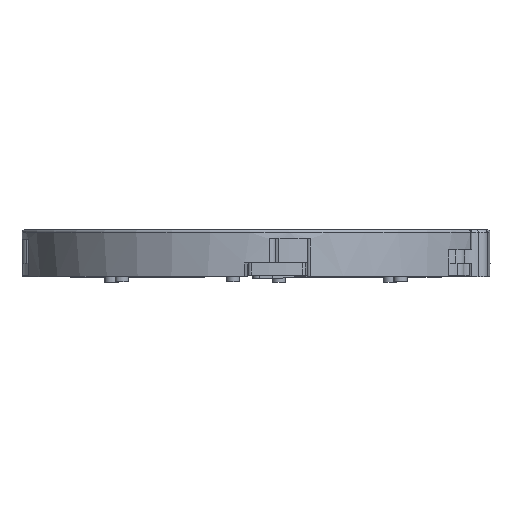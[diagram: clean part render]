
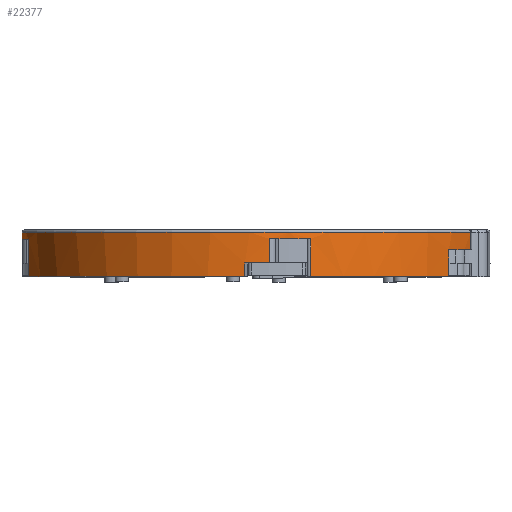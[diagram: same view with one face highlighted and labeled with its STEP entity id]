
A CAD part, top view. The second image highlights one B-rep face of the part: STEP entity #22377.
In plain terms, the highlighted cylindrical face has radius 17.5 mm (diameter 35 mm), a partial arc.
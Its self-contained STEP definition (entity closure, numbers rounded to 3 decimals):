
#1363=CIRCLE('',#23441,17.5);
#1369=CIRCLE('',#23452,17.5);
#1471=CIRCLE('',#23746,17.5);
#1477=CIRCLE('',#23753,17.5);
#1487=CIRCLE('',#23765,17.5);
#1513=CIRCLE('',#23803,17.5);
#1519=CIRCLE('',#23810,17.5);
#1520=CIRCLE('',#23811,17.5);
#1521=CIRCLE('',#23812,17.5);
#1851=CYLINDRICAL_SURFACE('',#23809,17.5);
#2309=FACE_OUTER_BOUND('',#3607,.T.);
#3607=EDGE_LOOP('',(#16412,#16413,#16414,#16415,#16416,#16417,#16418,#16419,
#16420,#16421,#16422,#16423,#16424,#16425,#16426,#16427,#16428,#16429));
#5391=LINE('',#33484,#7538);
#5392=LINE('',#33500,#7539);
#5393=LINE('',#33502,#7540);
#5394=LINE('',#33505,#7541);
#5395=LINE('',#33506,#7542);
#5396=LINE('',#33508,#7543);
#5397=LINE('',#33511,#7544);
#5398=LINE('',#33512,#7545);
#5399=LINE('',#33513,#7546);
#7538=VECTOR('',#26361,10.);
#7539=VECTOR('',#26380,10.);
#7540=VECTOR('',#26381,10.);
#7541=VECTOR('',#26384,10.);
#7542=VECTOR('',#26385,10.);
#7543=VECTOR('',#26386,10.);
#7544=VECTOR('',#26389,10.);
#7545=VECTOR('',#26390,10.);
#7546=VECTOR('',#26391,10.);
#9049=VERTEX_POINT('',#30011);
#9050=VERTEX_POINT('',#30013);
#9061=VERTEX_POINT('',#30045);
#9062=VERTEX_POINT('',#30047);
#9751=VERTEX_POINT('',#33342);
#9752=VERTEX_POINT('',#33344);
#9755=VERTEX_POINT('',#33352);
#9759=VERTEX_POINT('',#33359);
#9766=VERTEX_POINT('',#33376);
#9771=VERTEX_POINT('',#33385);
#9802=VERTEX_POINT('',#33474);
#9804=VERTEX_POINT('',#33480);
#9806=VERTEX_POINT('',#33486);
#9811=VERTEX_POINT('',#33498);
#9812=VERTEX_POINT('',#33501);
#9813=VERTEX_POINT('',#33503);
#9814=VERTEX_POINT('',#33507);
#9815=VERTEX_POINT('',#33509);
#11316=EDGE_CURVE('',#9050,#9049,#1363,.T.);
#11333=EDGE_CURVE('',#9062,#9061,#1369,.T.);
#12261=EDGE_CURVE('',#9751,#9752,#1471,.T.);
#12269=EDGE_CURVE('',#9759,#9755,#1477,.T.);
#12281=EDGE_CURVE('',#9771,#9766,#1487,.T.);
#12333=EDGE_CURVE('',#9802,#9804,#5391,.T.);
#12334=EDGE_CURVE('',#9806,#9804,#1513,.T.);
#12340=EDGE_CURVE('',#9811,#9802,#1519,.T.);
#12341=EDGE_CURVE('',#9766,#9811,#5392,.T.);
#12342=EDGE_CURVE('',#9812,#9771,#5393,.T.);
#12343=EDGE_CURVE('',#9812,#9813,#1520,.T.);
#12344=EDGE_CURVE('',#9050,#9813,#5394,.T.);
#12345=EDGE_CURVE('',#9752,#9049,#5395,.T.);
#12346=EDGE_CURVE('',#9814,#9751,#5396,.T.);
#12347=EDGE_CURVE('',#9814,#9815,#1521,.T.);
#12348=EDGE_CURVE('',#9062,#9815,#5397,.T.);
#12349=EDGE_CURVE('',#9755,#9061,#5398,.T.);
#12350=EDGE_CURVE('',#9759,#9806,#5399,.T.);
#16412=ORIENTED_EDGE('',*,*,#12333,.F.);
#16413=ORIENTED_EDGE('',*,*,#12340,.F.);
#16414=ORIENTED_EDGE('',*,*,#12341,.F.);
#16415=ORIENTED_EDGE('',*,*,#12281,.F.);
#16416=ORIENTED_EDGE('',*,*,#12342,.F.);
#16417=ORIENTED_EDGE('',*,*,#12343,.T.);
#16418=ORIENTED_EDGE('',*,*,#12344,.F.);
#16419=ORIENTED_EDGE('',*,*,#11316,.T.);
#16420=ORIENTED_EDGE('',*,*,#12345,.F.);
#16421=ORIENTED_EDGE('',*,*,#12261,.F.);
#16422=ORIENTED_EDGE('',*,*,#12346,.F.);
#16423=ORIENTED_EDGE('',*,*,#12347,.T.);
#16424=ORIENTED_EDGE('',*,*,#12348,.F.);
#16425=ORIENTED_EDGE('',*,*,#11333,.T.);
#16426=ORIENTED_EDGE('',*,*,#12349,.F.);
#16427=ORIENTED_EDGE('',*,*,#12269,.F.);
#16428=ORIENTED_EDGE('',*,*,#12350,.T.);
#16429=ORIENTED_EDGE('',*,*,#12334,.T.);
#22377=ADVANCED_FACE('',(#2309),#1851,.T.);
#23441=AXIS2_PLACEMENT_3D('',#30014,#24999,#25000);
#23452=AXIS2_PLACEMENT_3D('',#30048,#25032,#25033);
#23746=AXIS2_PLACEMENT_3D('',#33345,#26219,#26220);
#23753=AXIS2_PLACEMENT_3D('',#33361,#26235,#26236);
#23765=AXIS2_PLACEMENT_3D('',#33387,#26261,#26262);
#23803=AXIS2_PLACEMENT_3D('',#33487,#26364,#26365);
#23809=AXIS2_PLACEMENT_3D('',#33497,#26376,#26377);
#23810=AXIS2_PLACEMENT_3D('',#33499,#26378,#26379);
#23811=AXIS2_PLACEMENT_3D('',#33504,#26382,#26383);
#23812=AXIS2_PLACEMENT_3D('',#33510,#26387,#26388);
#24999=DIRECTION('center_axis',(0.,1.,0.));
#25000=DIRECTION('ref_axis',(-1.,0.,0.));
#25032=DIRECTION('center_axis',(0.,1.,0.));
#25033=DIRECTION('ref_axis',(-1.,0.,0.));
#26219=DIRECTION('center_axis',(0.,-1.,0.));
#26220=DIRECTION('ref_axis',(-0.048,0.,0.999));
#26235=DIRECTION('center_axis',(0.,-1.,0.));
#26236=DIRECTION('ref_axis',(0.824,0.,0.567));
#26261=DIRECTION('center_axis',(0.,-1.,0.));
#26262=DIRECTION('ref_axis',(-0.999,0.,-0.048));
#26361=DIRECTION('',(0.,-1.,0.));
#26364=DIRECTION('center_axis',(0.,1.,0.));
#26365=DIRECTION('ref_axis',(-1.,0.,0.));
#26376=DIRECTION('center_axis',(0.,1.,0.));
#26377=DIRECTION('ref_axis',(-1.,0.,0.));
#26378=DIRECTION('center_axis',(0.,1.,0.));
#26379=DIRECTION('ref_axis',(-0.278,0.,0.961));
#26380=DIRECTION('',(0.,1.,0.));
#26381=DIRECTION('',(0.,-1.,0.));
#26382=DIRECTION('center_axis',(0.,1.,0.));
#26383=DIRECTION('ref_axis',(-0.972,0.,0.233));
#26384=DIRECTION('',(0.,-1.,0.));
#26385=DIRECTION('',(0.,1.,0.));
#26386=DIRECTION('',(0.,-1.,0.));
#26387=DIRECTION('center_axis',(0.,1.,0.));
#26388=DIRECTION('ref_axis',(0.233,0.,0.972));
#26389=DIRECTION('',(0.,-1.,0.));
#26390=DIRECTION('',(0.,1.,0.));
#26391=DIRECTION('',(0.,1.,0.));
#30011=CARTESIAN_POINT('',(-17.018,1.8,4.079));
#30013=CARTESIAN_POINT('',(-17.471,1.8,1.001));
#30014=CARTESIAN_POINT('Origin',(0.,1.8,0.));
#30045=CARTESIAN_POINT('',(4.079,1.8,17.018));
#30047=CARTESIAN_POINT('',(1.001,1.8,17.471));
#30048=CARTESIAN_POINT('Origin',(0.,1.8,0.));
#33342=CARTESIAN_POINT('',(-0.836,-1.,17.48));
#33344=CARTESIAN_POINT('',(-17.018,-1.,4.079));
#33345=CARTESIAN_POINT('Origin',(0.,-1.,0.));
#33352=CARTESIAN_POINT('',(4.079,-1.,17.018));
#33359=CARTESIAN_POINT('',(14.414,-1.,9.924));
#33361=CARTESIAN_POINT('Origin',(0.,-1.,0.));
#33376=CARTESIAN_POINT('',(-17.289,-1.,-2.708));
#33385=CARTESIAN_POINT('',(-17.48,-1.,-0.836));
#33387=CARTESIAN_POINT('Origin',(0.,-1.,0.));
#33474=CARTESIAN_POINT('',(16.065,2.3,6.941));
#33480=CARTESIAN_POINT('',(16.065,1.,6.941));
#33484=CARTESIAN_POINT('',(16.065,1.25,6.941));
#33486=CARTESIAN_POINT('',(14.414,1.,9.924));
#33487=CARTESIAN_POINT('Origin',(0.,1.,0.));
#33497=CARTESIAN_POINT('Origin',(0.,1.25,0.));
#33498=CARTESIAN_POINT('',(-17.289,2.3,-2.708));
#33499=CARTESIAN_POINT('Origin',(0.,2.3,0.));
#33500=CARTESIAN_POINT('',(-17.289,1.25,-2.708));
#33501=CARTESIAN_POINT('',(-17.48,0.,-0.836));
#33502=CARTESIAN_POINT('',(-17.48,0.,-0.836));
#33503=CARTESIAN_POINT('',(-17.471,0.,1.001));
#33504=CARTESIAN_POINT('Origin',(0.,0.,
0.));
#33505=CARTESIAN_POINT('',(-17.471,1.25,1.001));
#33506=CARTESIAN_POINT('',(-17.018,1.25,4.079));
#33507=CARTESIAN_POINT('',(-0.836,0.,17.48));
#33508=CARTESIAN_POINT('',(-0.836,0.,17.48));
#33509=CARTESIAN_POINT('',(1.001,0.,17.471));
#33510=CARTESIAN_POINT('Origin',(0.,0.,
0.));
#33511=CARTESIAN_POINT('',(1.001,1.25,17.471));
#33512=CARTESIAN_POINT('',(4.079,1.25,17.018));
#33513=CARTESIAN_POINT('',(14.414,0.,9.924));
